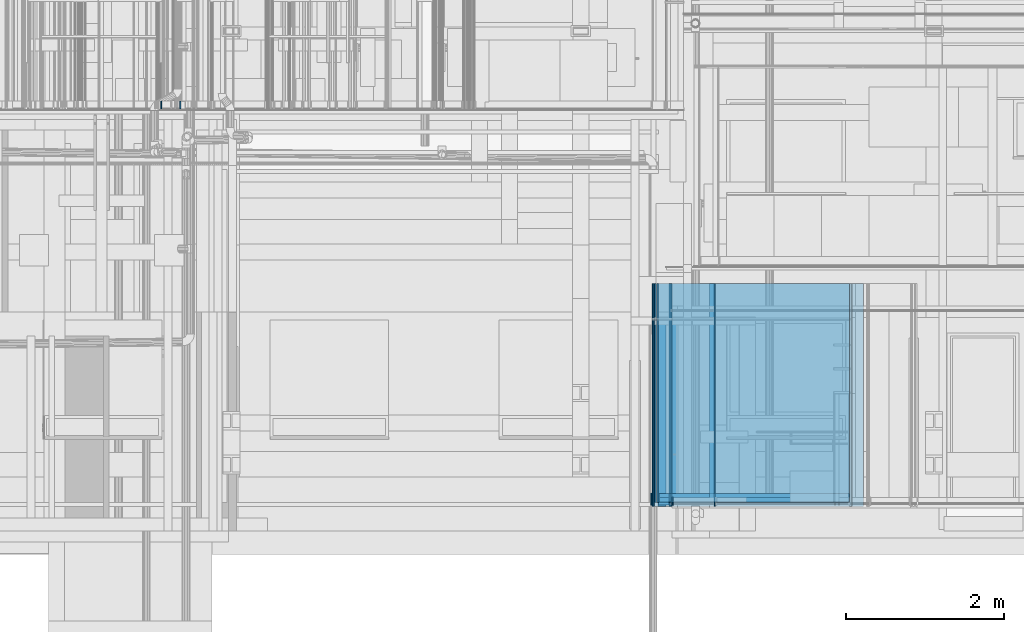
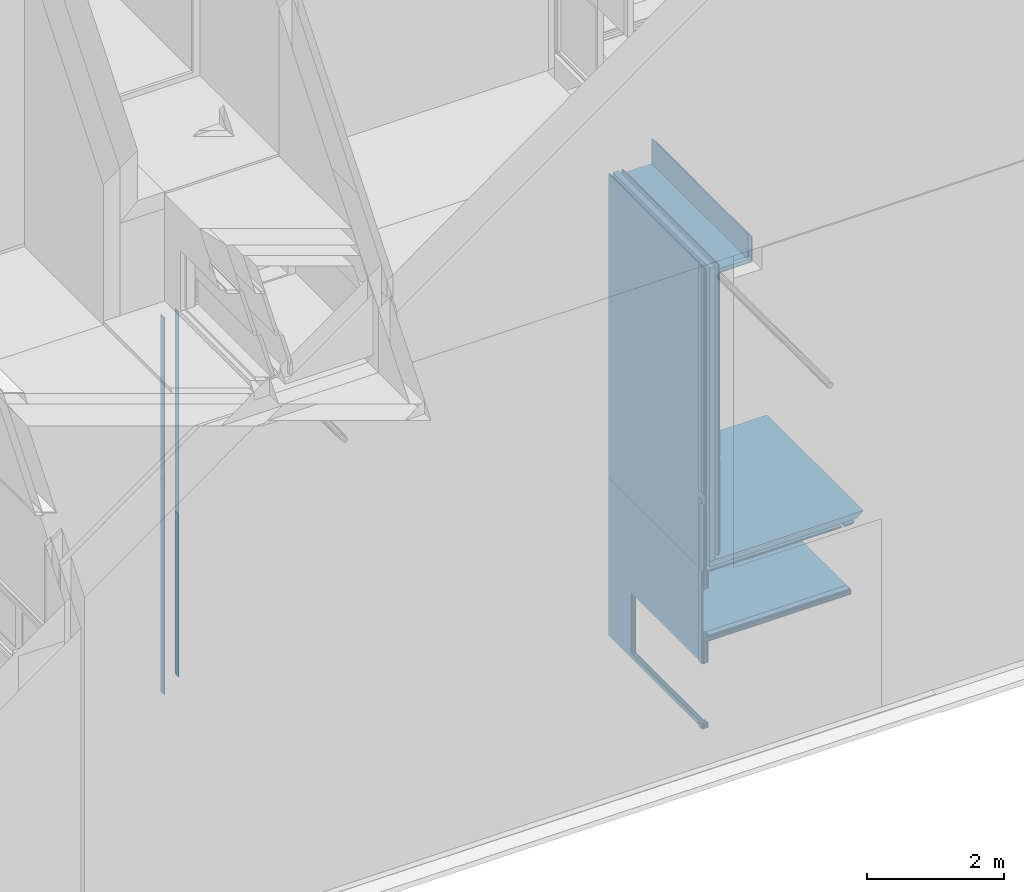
# One storey, part 45 of 583: 33 building element parts, 2 openings, 7 elements without a shape of their own.
"""IFC2X3 building model written with IfcOpenShell, lengths in metres."""

from ifc_helpers import new_model, entity, si_unit, converted_unit, derived_unit, money_unit, direction, frame, frame_2d, origin_with_axes, place, context, subcontext, project, spatial, polyline, rectangle, outline, composite_profile, extrude, material, type_object, element, aggregate, save


model = new_model("IFC2X3")

# Units and contexts
model_context = context("Model", 3, precision=1e-05, world=origin_with_axes(), true_north=direction((0.0, 1.0)))
body_context = subcontext(model_context, "Body", "Model", "MODEL_VIEW", scale=1.0)
ifc_project = project(units=[si_unit("LENGTHUNIT", "METRE"), si_unit("AREAUNIT", "SQUARE_METRE"), si_unit("VOLUMEUNIT", "CUBIC_METRE"), si_unit("ABSORBEDDOSEUNIT", "GRAY"), si_unit("AMOUNTOFSUBSTANCEUNIT", "MOLE"), si_unit("DOSEEQUIVALENTUNIT", "SIEVERT"), si_unit("ELECTRICCAPACITANCEUNIT", "FARAD"), si_unit("ELECTRICCHARGEUNIT", "COULOMB"), si_unit("ELECTRICCONDUCTANCEUNIT", "SIEMENS"), si_unit("ELECTRICCURRENTUNIT", "AMPERE"), si_unit("ELECTRICRESISTANCEUNIT", "OHM"), si_unit("ELECTRICVOLTAGEUNIT", "VOLT"), si_unit("ENERGYUNIT", "JOULE"), si_unit("FORCEUNIT", "NEWTON"), si_unit("FREQUENCYUNIT", "HERTZ"), si_unit("ILLUMINANCEUNIT", "LUX"), si_unit("INDUCTANCEUNIT", "HENRY"), si_unit("LUMINOUSFLUXUNIT", "LUMEN"), si_unit("LUMINOUSINTENSITYUNIT", "CANDELA"), si_unit("MAGNETICFLUXDENSITYUNIT", "TESLA"), si_unit("MAGNETICFLUXUNIT", "WEBER"), si_unit("MASSUNIT", "GRAM"), converted_unit("PLANEANGLEUNIT", "degree", entity("IfcReal", 0.0174532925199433), si_unit("PLANEANGLEUNIT", "RADIAN"), dimensions=[0, 0, 0, 0, 0, 0, 0]), si_unit("POWERUNIT", "WATT"), si_unit("PRESSUREUNIT", "PASCAL"), si_unit("RADIOACTIVITYUNIT", "BECQUEREL"), si_unit("SOLIDANGLEUNIT", "STERADIAN"), si_unit("THERMODYNAMICTEMPERATUREUNIT", "KELVIN"), si_unit("TIMEUNIT", "SECOND"), derived_unit("ACCELERATIONUNIT", [(si_unit("LENGTHUNIT", "METRE"), 1), (si_unit("TIMEUNIT", "SECOND"), -2)]), derived_unit("ANGULARVELOCITYUNIT", [(converted_unit("PLANEANGLEUNIT", "degree", entity("IfcReal", 0.0174532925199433), si_unit("PLANEANGLEUNIT", "RADIAN"), dimensions=[0, 0, 0, 0, 0, 0, 0]), 1), (si_unit("TIMEUNIT", "SECOND"), -1)]), derived_unit("CURVATUREUNIT", [(converted_unit("PLANEANGLEUNIT", "degree", entity("IfcReal", 0.0174532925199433), si_unit("PLANEANGLEUNIT", "RADIAN"), dimensions=[0, 0, 0, 0, 0, 0, 0]), 1), (si_unit("LENGTHUNIT", "METRE"), -1)]), derived_unit("DYNAMICVISCOSITYUNIT", [(si_unit("PRESSUREUNIT", "PASCAL"), 1), (si_unit("TIMEUNIT", "SECOND"), 1)]), derived_unit("HEATFLUXDENSITYUNIT", [(si_unit("POWERUNIT", "WATT"), 1), (si_unit("LENGTHUNIT", "METRE"), -2)]), derived_unit("HEATINGVALUEUNIT", [(si_unit("ENERGYUNIT", "JOULE"), 1), (si_unit("MASSUNIT", "GRAM"), -1)]), derived_unit("INTEGERCOUNTRATEUNIT", [(si_unit("TIMEUNIT", "SECOND"), -1)]), derived_unit("IONCONCENTRATIONUNIT", [(si_unit("MASSUNIT", "GRAM"), 1), (si_unit("VOLUMEUNIT", "CUBIC_METRE"), -1)]), derived_unit("ISOTHERMALMOISTURECAPACITYUNIT", [(si_unit("VOLUMEUNIT", "CUBIC_METRE"), 1), (si_unit("MASSUNIT", "GRAM"), -1)]), derived_unit("KINEMATICVISCOSITYUNIT", [(si_unit("AREAUNIT", "SQUARE_METRE"), 1), (si_unit("TIMEUNIT", "SECOND"), -1)]), derived_unit("LINEARFORCEUNIT", [(si_unit("FORCEUNIT", "NEWTON"), 1), (si_unit("LENGTHUNIT", "METRE"), -1)]), derived_unit("LINEARMOMENTUNIT", [(si_unit("FORCEUNIT", "NEWTON"), 1), (si_unit("LENGTHUNIT", "METRE"), -1)]), derived_unit("LINEARSTIFFNESSUNIT", [(si_unit("FORCEUNIT", "NEWTON"), 1), (si_unit("LENGTHUNIT", "METRE"), -1)]), derived_unit("LINEARVELOCITYUNIT", [(si_unit("LENGTHUNIT", "METRE"), 1), (si_unit("TIMEUNIT", "SECOND"), -1)]), derived_unit("LUMINOUSINTENSITYDISTRIBUTIONUNIT", [(si_unit("LUMINOUSINTENSITYUNIT", "CANDELA"), 1), (si_unit("LUMINOUSFLUXUNIT", "LUMEN"), -1)]), derived_unit("MASSDENSITYUNIT", [(si_unit("MASSUNIT", "GRAM"), 1), (si_unit("VOLUMEUNIT", "CUBIC_METRE"), -1)]), derived_unit("MASSFLOWRATEUNIT", [(si_unit("MASSUNIT", "GRAM"), 1), (si_unit("TIMEUNIT", "SECOND"), -1)]), derived_unit("MASSPERLENGTHUNIT", [(si_unit("MASSUNIT", "GRAM"), 1), (si_unit("LENGTHUNIT", "METRE"), -1)]), derived_unit("MODULUSOFELASTICITYUNIT", [(si_unit("FORCEUNIT", "NEWTON"), 1), (si_unit("AREAUNIT", "SQUARE_METRE"), -1)]), derived_unit("MODULUSOFLINEARSUBGRADEREACTIONUNIT", [(si_unit("FORCEUNIT", "NEWTON"), 1), (si_unit("LENGTHUNIT", "METRE"), -2)]), derived_unit("MODULUSOFROTATIONALSUBGRADEREACTIONUNIT", [(si_unit("FORCEUNIT", "NEWTON"), 1), (si_unit("LENGTHUNIT", "METRE"), 1)]), derived_unit("MODULUSOFSUBGRADEREACTIONUNIT", [(si_unit("FORCEUNIT", "NEWTON"), 1), (si_unit("VOLUMEUNIT", "CUBIC_METRE"), -1)]), derived_unit("MOISTUREDIFFUSIVITYUNIT", [(si_unit("VOLUMEUNIT", "CUBIC_METRE"), 1), (si_unit("TIMEUNIT", "SECOND"), -1)]), derived_unit("MOLECULARWEIGHTUNIT", [(si_unit("MASSUNIT", "GRAM"), 1), (si_unit("AMOUNTOFSUBSTANCEUNIT", "MOLE"), -1)]), derived_unit("PLANARFORCEUNIT", [(si_unit("FORCEUNIT", "NEWTON"), 1), (si_unit("LENGTHUNIT", "METRE"), -2)]), derived_unit("ROTATIONALFREQUENCYUNIT", [(si_unit("TIMEUNIT", "SECOND"), -1)]), derived_unit("ROTATIONALMASSUNIT", [(si_unit("MASSUNIT", "GRAM"), 1), (si_unit("LENGTHUNIT", "METRE"), 2)]), derived_unit("ROTATIONALSTIFFNESSUNIT", [(si_unit("FORCEUNIT", "NEWTON"), 1), (si_unit("LENGTHUNIT", "METRE"), 1), (converted_unit("PLANEANGLEUNIT", "degree", entity("IfcReal", 0.0174532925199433), si_unit("PLANEANGLEUNIT", "RADIAN"), dimensions=[0, 0, 0, 0, 0, 0, 0]), -1)]), derived_unit("SECTIONAREAINTEGRALUNIT", [(si_unit("LENGTHUNIT", "METRE"), 5)]), derived_unit("SECTIONMODULUSUNIT", [(si_unit("LENGTHUNIT", "METRE"), 3)]), derived_unit("SHEARMODULUSUNIT", [(si_unit("FORCEUNIT", "NEWTON"), 1), (si_unit("AREAUNIT", "SQUARE_METRE"), -1)]), derived_unit("SOUNDPOWERUNIT", [(si_unit("ENERGYUNIT", "JOULE"), 1), (si_unit("TIMEUNIT", "SECOND"), -1)]), derived_unit("SPECIFICHEATCAPACITYUNIT", [(si_unit("FORCEUNIT", "NEWTON"), 1), (si_unit("MASSUNIT", "GRAM"), -1), (si_unit("THERMODYNAMICTEMPERATUREUNIT", "KELVIN"), -1)]), derived_unit("TEMPERATUREGRADIENTUNIT", [(si_unit("THERMODYNAMICTEMPERATUREUNIT", "KELVIN"), 1), (si_unit("LENGTHUNIT", "METRE"), -1)]), derived_unit("THERMALADMITTANCEUNIT", [(si_unit("POWERUNIT", "WATT"), 1), (si_unit("AREAUNIT", "SQUARE_METRE"), -1), (si_unit("THERMODYNAMICTEMPERATUREUNIT", "KELVIN"), -1)]), derived_unit("THERMALCONDUCTANCEUNIT", [(si_unit("POWERUNIT", "WATT"), 1), (si_unit("LENGTHUNIT", "METRE"), -1), (si_unit("THERMODYNAMICTEMPERATUREUNIT", "KELVIN"), -1)]), derived_unit("THERMALEXPANSIONCOEFFICIENTUNIT", [(si_unit("THERMODYNAMICTEMPERATUREUNIT", "KELVIN"), -1)]), derived_unit("THERMALRESISTANCEUNIT", [(si_unit("AREAUNIT", "SQUARE_METRE"), 1), (si_unit("POWERUNIT", "WATT"), -1)]), derived_unit("THERMALTRANSMITTANCEUNIT", [(si_unit("POWERUNIT", "WATT"), 1), (si_unit("AREAUNIT", "SQUARE_METRE"), -1), (si_unit("THERMODYNAMICTEMPERATUREUNIT", "KELVIN"), -1)]), derived_unit("TORQUEUNIT", [(si_unit("FORCEUNIT", "NEWTON"), 1), (si_unit("LENGTHUNIT", "METRE"), 1)]), derived_unit("VAPORPERMEABILITYUNIT", [(si_unit("MASSUNIT", "GRAM"), 1), (si_unit("TIMEUNIT", "SECOND"), -1)]), derived_unit("VOLUMETRICFLOWRATEUNIT", [(si_unit("VOLUMEUNIT", "CUBIC_METRE"), 1), (si_unit("TIMEUNIT", "SECOND"), -1)]), derived_unit("WARPINGCONSTANTUNIT", [(si_unit("LENGTHUNIT", "METRE"), 6)]), derived_unit("WARPINGMOMENTUNIT", [(si_unit("FORCEUNIT", "NEWTON"), 1), (si_unit("LENGTHUNIT", "METRE"), 2)]), money_unit("GBP")], contexts=[model_context])

# Site, building, storey
site_placement = place(None, origin_with_axes())
site = spatial("IfcSite", under=ifc_project, at=site_placement, Name="Site", CompositionType="ELEMENT")
building_placement = place(site_placement, origin_with_axes())
building = spatial("IfcBuilding", under=site, at=building_placement, Name="Building01", CompositionType="ELEMENT")
storey_placement = place(building_placement, frame((0.0, 0.0, 20.78), z_axis=(0.0, 0.0, 1.0), x_axis=(1.0, 0.0, 0.0)))
storey = spatial("IfcBuildingStorey", under=building, at=storey_placement, Name="RL", CompositionType="ELEMENT", Elevation=20.78)

# Wall, building element parts
wall_type_1 = type_object("IfcWallType", Name="SHE_A-Walls_Type01a_Partywall_250mm_twin", PredefinedType="NOTDEFINED")
wall_1_placement = place(storey_placement, frame((16.968647, 0.148, -17.324475), z_axis=(0.0, 1.0, 0.0), x_axis=(-1.0, 0.0, 0.0)))
wall_1 = element("IfcWall", 1, at=wall_1_placement, inside=storey, type_object=wall_type_1, Name="1A", ObjectType="SHE_A-Walls_Type01a_Partywall_250mm_twin")
ifc_material_1 = material(Name="A_BSUK_Insulation")
placement_1 = place(wall_1_placement, origin_with_axes())
building_element_part_1 = element("IfcBuildingElementPart", 2, at=placement_1, material=ifc_material_1, Name="1", context=body_context, shape_type="SweptSolid", body=[
    extrude(outline(polyline([(2.493647, 0.1), (-0.1, 0.1), (0.0, 0.0), (2.493647, 0.0), (2.493647, 0.1)])), origin_with_axes(), (0.0, 0.0, 1.0), 2.812),
])
ifc_material_2 = material(Name="A_BSUK_WallInternal_Finishes_Plasterboard")
building_element_part_2 = element("IfcBuildingElementPart", 3, at=placement_1, material=ifc_material_2, Name="5", context=body_context, shape_type="SweptSolid", body=[
    extrude(composite_profile([rectangle(XDim=2.27864974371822, YDim=0.015, at=frame_2d((1.399322, -0.0525), x_axis=(1.0, 0.0))), outline(polyline([(0.209998, -0.045), (0.045, -0.045), (0.06, -0.06), (0.209998, -0.06), (0.209998, -0.045)]))]), origin_with_axes(), (0.0, 0.0, 1.0), 2.812),
])
building_element_part_3 = element("IfcBuildingElementPart", 4, at=placement_1, material=ifc_material_2, Name="6", context=body_context, shape_type="SweptSolid", body=[
    extrude(composite_profile([outline(polyline([(0.259998, -0.075), (2.568647, -0.075), (2.553647, -0.06), (0.259998, -0.06), (0.259998, -0.075)])), outline(polyline([(0.209998, -0.06), (0.06, -0.06), (0.075, -0.075), (0.209998, -0.075), (0.209998, -0.06)]))]), origin_with_axes(), (0.0, 0.0, 1.0), 2.812),
])
ifc_material_3 = material(Name="A_BSUK_Walls_Timber")
building_element_part_4 = element("IfcBuildingElementPart", 5, at=placement_1, material=ifc_material_3, Name="7", context=body_context, shape_type="SweptSolid", body=[
    extrude(composite_profile([outline(polyline([(0.259998, -0.09), (2.473647, -0.09), (2.488647, -0.075), (0.259998, -0.075), (0.259998, -0.09)])), outline(polyline([(0.209998, -0.075), (0.075, -0.075), (0.09, -0.09), (0.209998, -0.09), (0.209998, -0.075)]))]), frame((0.0, 0.0, 0.015), z_axis=(0.0, 0.0, 1.0), x_axis=(1.0, 0.0, 0.0)), (0.0, 0.0, 1.0), 0.1),
])
aggregate(wall_1, [building_element_part_1, building_element_part_2, building_element_part_3, building_element_part_4])

wall_type_2 = type_object("IfcWallType", Name="SHE_A-Walls_Type05b_Partition_80mm", PredefinedType="NOTDEFINED")
wall_2_placement = place(storey_placement, frame((16.893647, 0.198, -18.639975), z_axis=(0.0, 1.0, 0.0), x_axis=(-1.0, 0.0, 0.0)))
wall_2 = element("IfcWall", 6, at=wall_2_placement, inside=storey, type_object=wall_type_2, Name="5B", ObjectType="SHE_A-Walls_Type05b_Partition_80mm")
placement_2 = place(wall_2_placement, origin_with_axes())
building_element_part_5 = element("IfcBuildingElementPart", 7, at=placement_2, material=ifc_material_1, Name="1", context=body_context, shape_type="SweptSolid", body=[
    extrude(rectangle(XDim=2.441647, YDim=0.025, at=frame_2d((1.220824, 0.0), x_axis=(-1.0, 0.0))), origin_with_axes(), (0.0, 0.0, 1.0), 2.762),
])
building_element_part_6 = element("IfcBuildingElementPart", 8, at=placement_2, material=ifc_material_3, Name="2", context=body_context, shape_type="SweptSolid", body=[
    extrude(outline(polyline([(2.398647, 0.0555), (0.015, 0.0555), (0.0, 0.0405), (2.413647, 0.0405), (2.398647, 0.0555)])), frame((0.0, 0.0, 0.015), z_axis=(0.0, 0.0, 1.0), x_axis=(1.0, 0.0, 0.0)), (0.0, 0.0, 1.0), 0.1),
])
building_element_part_7 = element("IfcBuildingElementPart", 9, at=placement_2, material=ifc_material_2, Name="3", context=body_context, shape_type="SweptSolid", body=[
    extrude(rectangle(XDim=2.413647, YDim=0.015, at=frame_2d((1.206824, 0.033), x_axis=(-1.0, 0.0))), origin_with_axes(), (0.0, 0.0, 1.0), 2.762),
])
building_element_part_8 = element("IfcBuildingElementPart", 10, at=placement_2, material=ifc_material_2, Name="4", context=body_context, shape_type="SweptSolid", body=[
    extrude(rectangle(XDim=2.428647, YDim=0.015, at=frame_2d((1.214324, -0.032), x_axis=(-1.0, 0.0))), origin_with_axes(), (0.0, 0.0, 1.0), 2.762),
])
building_element_part_9 = element("IfcBuildingElementPart", 11, at=placement_2, material=ifc_material_3, Name="5", context=body_context, shape_type="SweptSolid", body=[
    extrude(outline(polyline([(2.413647, -0.0395), (0.0, -0.0395), (0.015, -0.0545), (2.398647, -0.0545), (2.413647, -0.0395)])), frame((0.0, 0.0, 0.015), z_axis=(0.0, 0.0, 1.0), x_axis=(1.0, 0.0, 0.0)), (0.0, 0.0, 1.0), 0.1),
])
aggregate(wall_2, [building_element_part_5, building_element_part_6, building_element_part_7, building_element_part_8, building_element_part_9])

wall_3_placement = place(storey_placement, frame((14.475, 0.148, -17.224475), z_axis=(0.0, 1.0, 0.0), x_axis=(0.0, 0.0, 1.0)))
wall_3 = element("IfcWall", 12, at=wall_3_placement, inside=storey, type_object=wall_type_1, Name="1A", ObjectType="SHE_A-Walls_Type01a_Partywall_250mm_twin")
placement_3 = place(wall_3_placement, origin_with_axes())
building_element_part_10 = element("IfcBuildingElementPart", 13, at=placement_3, material=ifc_material_1, Name="1", context=body_context, shape_type="SweptSolid", body=[
    extrude(rectangle(XDim=5.21974, YDim=0.1, at=frame_2d((2.60987, 0.05), x_axis=(-1.0, 0.0))), origin_with_axes(), (0.0, 0.0, 1.0), 2.812),
])
building_element_part_11 = element("IfcBuildingElementPart", 14, at=placement_3, material=ifc_material_3, Name="2", context=body_context, shape_type="SweptSolid", body=[
    extrude(rectangle(XDim=1.628731, YDim=0.015, at=frame_2d((0.904366, 0.1825), x_axis=(-1.0, 0.0))), frame((0.0, 0.0, 0.015), z_axis=(0.0, 0.0, 1.0), x_axis=(1.0, 0.0, 0.0)), (0.0, 0.0, 1.0), 0.1),
])
building_element_part_12 = element("IfcBuildingElementPart", 15, at=placement_3, material=ifc_material_2, Name="3", context=body_context, shape_type="SweptSolid", body=[
    extrude(rectangle(XDim=5.14474, YDim=0.015, at=frame_2d((2.64737, 0.1675), x_axis=(-1.0, 0.0))), origin_with_axes(), (0.0, 0.0, 1.0), 2.812),
])
building_element_part_13 = element("IfcBuildingElementPart", 16, at=placement_3, material=ifc_material_2, Name="4", context=body_context, shape_type="SweptSolid", body=[
    extrude(rectangle(XDim=5.15974, YDim=0.015, at=frame_2d((2.63987, 0.1525), x_axis=(-1.0, 0.0))), origin_with_axes(), (0.0, 0.0, 1.0), 2.812),
])
building_element_part_14 = element("IfcBuildingElementPart", 17, at=placement_3, material=ifc_material_2, Name="5", context=body_context, shape_type="SweptSolid", body=[
    extrude(rectangle(XDim=5.37974, YDim=0.015, at=frame_2d((2.52987, -0.0525), x_axis=(-1.0, 0.0))), origin_with_axes(), (0.0, 0.0, 1.0), 2.812),
])
building_element_part_15 = element("IfcBuildingElementPart", 18, at=placement_3, material=ifc_material_2, Name="6", context=body_context, shape_type="SweptSolid", body=[
    extrude(outline(polyline([(5.21974, -0.06), (-0.16, -0.06), (-0.175, -0.075), (5.21974, -0.075), (5.21974, -0.06)])), origin_with_axes(), (0.0, 0.0, 1.0), 2.812),
])
building_element_part_16 = element("IfcBuildingElementPart", 19, at=placement_3, material=ifc_material_3, Name="7", context=body_context, shape_type="SweptSolid", body=[
    extrude(rectangle(XDim=0.015, YDim=1.192594, at=frame_2d((0.421297, -0.0825), x_axis=(0.0, -1.0))), frame((0.0, 0.0, 0.015), z_axis=(0.0, 0.0, 1.0), x_axis=(1.0, 0.0, 0.0)), (0.0, 0.0, 1.0), 0.1),
])
building_element_part_17 = element("IfcBuildingElementPart", 20, at=placement_3, material=ifc_material_3, Name="8", context=body_context, shape_type="SweptSolid", body=[
    extrude(rectangle(XDim=4.007584, YDim=0.015, at=frame_2d((3.215949, -0.0825), x_axis=(-1.0, 0.0))), frame((0.0, 0.0, 0.015), z_axis=(0.0, 0.0, 1.0), x_axis=(1.0, 0.0, 0.0)), (0.0, 0.0, 1.0), 0.1),
])
building_element_part_18 = element("IfcBuildingElementPart", 21, at=placement_3, material=ifc_material_3, Name="9", context=body_context, shape_type="SweptSolid", body=[
    extrude(rectangle(XDim=3.279035, YDim=0.015, at=frame_2d((3.438249, 0.1825), x_axis=(-1.0, 0.0))), frame((0.0, 0.0, 0.015), z_axis=(0.0, 0.0, 1.0), x_axis=(1.0, 0.0, 0.0)), (0.0, 0.0, 1.0), 0.1),
])
aggregate(wall_3, [building_element_part_10, building_element_part_11, building_element_part_12, building_element_part_13, building_element_part_14, building_element_part_15, building_element_part_16, building_element_part_17, building_element_part_18])

# Wall, openings, building element parts
wall_4_placement = place(storey_placement, frame((14.4395, 0.198, -20.214298), z_axis=(0.0, 1.0, 0.0), x_axis=(0.0, 0.0, 1.0)))
wall_4 = element("IfcWall", 22, at=wall_4_placement, inside=storey, type_object=wall_type_2, Name="5B", ObjectType="SHE_A-Walls_Type05b_Partition_80mm")
opening_1_placement = place(wall_4_placement, frame((1.647823, 0.0405, 0.0), z_axis=(0.0, 0.0, 1.0), x_axis=(1.0, 0.0, 0.0)))
element("IfcOpeningElement", 23, at=opening_1_placement, cuts=wall_4, Name="Opening", ObjectType="Opening", context=body_context, shape_type="SweptSolid", body=[
    extrude(rectangle(XDim=2.1, YDim=0.834, at=frame_2d((-0.417, 1.05), x_axis=(0.0, -1.0))), frame((0.0, -0.0795, 0.0), z_axis=(0.0, 1.0, 0.0), x_axis=(-1.0, 0.0, 0.0)), (0.0, 0.0, 1.0), 0.159),
])
opening_2_placement = place(wall_4_placement, frame((0.075411, -0.0395, 0.0), z_axis=(0.0, 0.0, 1.0), x_axis=(1.0, 0.0, 0.0)))
element("IfcOpeningElement", 24, at=opening_2_placement, cuts=wall_4, Name="Opening", ObjectType="Opening", context=body_context, shape_type="SweptSolid", body=[
    extrude(rectangle(XDim=1.084, YDim=2.1, at=frame_2d((0.542, 1.05), x_axis=(1.0, 0.0))), frame((0.0, 4.338322, 0.0), z_axis=(0.0, -1.0, 0.0), x_axis=(1.0, 0.0, 0.0)), (0.0, 0.0, 1.0), 8.676643),
])
placement_4 = place(wall_4_placement, origin_with_axes())
building_element_part_19 = element("IfcBuildingElementPart", 25, at=placement_4, material=ifc_material_1, Name="1", context=body_context, shape_type="SweptSolid", body=[
    extrude(rectangle(XDim=2.814823, YDim=0.025, at=frame_2d((1.407411, 0.0), x_axis=(-1.0, 0.0))), origin_with_axes(), (0.0, 0.0, 1.0), 2.762),
])
building_element_part_20 = element("IfcBuildingElementPart", 26, at=placement_4, material=ifc_material_3, Name="2", context=body_context, shape_type="SweptSolid", body=[
    extrude(composite_profile([outline(polyline([(1.519823, 0.0555), (0.0, 0.0555), (0.0, 0.0405), (1.534823, 0.0405), (1.519823, 0.0555)])), outline(polyline([(1.614823, 0.0405), (2.814823, 0.0405), (2.799823, 0.0555), (1.629823, 0.0555), (1.614823, 0.0405)]))]), frame((0.0, 0.0, 0.015), z_axis=(0.0, 0.0, 1.0), x_axis=(1.0, 0.0, 0.0)), (0.0, 0.0, 1.0), 0.1),
])
building_element_part_21 = element("IfcBuildingElementPart", 27, at=placement_4, material=ifc_material_2, Name="3", context=body_context, shape_type="SweptSolid", body=[
    extrude(rectangle(XDim=1.534823, YDim=0.015, at=frame_2d((0.767411, 0.033), x_axis=(-1.0, 0.0))), origin_with_axes(), (0.0, 0.0, 1.0), 2.762),
])
building_element_part_22 = element("IfcBuildingElementPart", 28, at=placement_4, material=ifc_material_2, Name="4", context=body_context, shape_type="SweptSolid", body=[
    extrude(rectangle(XDim=2.814823, YDim=0.015, at=frame_2d((1.407411, -0.032), x_axis=(-1.0, 0.0))), origin_with_axes(), (0.0, 0.0, 1.0), 2.762),
])
building_element_part_23 = element("IfcBuildingElementPart", 29, at=placement_4, material=ifc_material_3, Name="5", context=body_context, shape_type="SweptSolid", body=[
    extrude(rectangle(XDim=4.069979, YDim=0.015, at=frame_2d((2.03499, -0.047), x_axis=(1.0, 0.0))), frame((0.0, 0.0, 0.015), z_axis=(0.0, 0.0, 1.0), x_axis=(1.0, 0.0, 0.0)), (0.0, 0.0, 1.0), 0.1),
])
building_element_part_24 = element("IfcBuildingElementPart", 30, at=placement_4, material=ifc_material_2, Name="6", context=body_context, shape_type="SweptSolid", body=[
    extrude(rectangle(XDim=1.215, YDim=0.015, at=frame_2d((2.207323, 0.033), x_axis=(-1.0, 0.0))), origin_with_axes(), (0.0, 0.0, 1.0), 2.762),
])
building_element_part_25 = element("IfcBuildingElementPart", 31, at=placement_4, material=ifc_material_3, Name="7", context=body_context, shape_type="SweptSolid", body=[
    extrude(rectangle(XDim=4.007584, YDim=0.015, at=frame_2d((6.205771, -0.047), x_axis=(-1.0, 0.0))), frame((0.0, 0.0, 0.015), z_axis=(0.0, 0.0, 1.0), x_axis=(1.0, 0.0, 0.0)), (0.0, 0.0, 1.0), 0.1),
])
aggregate(wall_4, [building_element_part_19, building_element_part_20, building_element_part_21, building_element_part_22, building_element_part_23, building_element_part_24, building_element_part_25])

# Wall, building element parts
wall_type_3 = type_object("IfcWallType", Name="SHE_A-Walls_Type06c_ExternalWallInsulation_60mm", PredefinedType="NOTDEFINED")
wall_5_placement = place(storey_placement, frame((14.65, 0.148, -12.074709), z_axis=(0.0, 1.0, 0.0), x_axis=(1.0, 0.0, 0.0)))
wall_5 = element("IfcWall", 32, at=wall_5_placement, inside=storey, type_object=wall_type_3, Name="6C", ObjectType="SHE_A-Walls_Type06c_ExternalWallInsulation_60mm")
placement_5 = place(wall_5_placement, origin_with_axes())
building_element_part_26 = element("IfcBuildingElementPart", 33, at=placement_5, material=ifc_material_1, Name="1", context=body_context, shape_type="SweptSolid", body=[
    extrude(outline(polyline([(0.537892, 0.06), (0.0, 0.06), (0.0, 0.0), (0.477892, 0.0), (0.537892, 0.06)])), origin_with_axes(), (0.0, 0.0, 1.0), 2.812),
])
building_element_part_27 = element("IfcBuildingElementPart", 34, at=placement_5, material=ifc_material_2, Name="3", context=body_context, shape_type="SweptSolid", body=[
    extrude(outline(polyline([(0.549892, 0.072), (0.0, 0.072), (0.0, 0.059), (0.536892, 0.059), (0.549892, 0.072)])), origin_with_axes(), (0.0, 0.0, 1.0), 2.812),
])
aggregate(wall_5, [building_element_part_26, building_element_part_27])

wall_6_placement = place(storey_placement, frame((15.127892, 0.148, -12.074709), z_axis=(0.0, 1.0, 0.0), x_axis=(0.0, 0.0, 1.0)))
wall_6 = element("IfcWall", 35, at=wall_6_placement, inside=storey, type_object=wall_type_3, Name="6C", ObjectType="SHE_A-Walls_Type06c_ExternalWallInsulation_60mm")
placement_6 = place(wall_6_placement, origin_with_axes())
building_element_part_28 = element("IfcBuildingElementPart", 36, at=placement_6, material=ifc_material_1, Name="1", context=body_context, shape_type="SweptSolid", body=[
    extrude(outline(polyline([(0.388974, 0.06), (-0.06, 0.06), (0.0, 0.0), (0.448974, 0.0), (0.388974, 0.06)])), origin_with_axes(), (0.0, 0.0, 1.0), 2.812),
])
building_element_part_29 = element("IfcBuildingElementPart", 37, at=placement_6, material=ifc_material_2, Name="3", context=body_context, shape_type="SweptSolid", body=[
    extrude(outline(polyline([(0.376974, 0.072), (-0.072, 0.072), (-0.059, 0.059), (0.389974, 0.059), (0.376974, 0.072)])), origin_with_axes(), (0.0, 0.0, 1.0), 2.812),
])
aggregate(wall_6, [building_element_part_28, building_element_part_29])

wall_type_4 = type_object("IfcWallType", Name="SHE_A-Walls_Type01c_Partywall_225mm_twin_tall", PredefinedType="NOTDEFINED")
wall_7_placement = place(storey_placement, frame((8.34767, 5.15, -13.628331), z_axis=(0.0, 1.0, 0.0), x_axis=(0.0, 0.0, -1.0)))
wall_7 = element("IfcWall", 38, at=wall_7_placement, inside=storey, type_object=wall_type_4, Name="1C", ObjectType="SHE_A-Walls_Type01c_Partywall_225mm_twin_tall")
placement_7 = place(wall_7_placement, origin_with_axes())
building_element_part_30 = element("IfcBuildingElementPart", 39, at=placement_7, material=ifc_material_3, Name="2", context=body_context, shape_type="SweptSolid", body=[
    extrude(rectangle(XDim=6.549669, YDim=0.015, at=frame_2d((3.376834, 0.1445), x_axis=(-1.0, 0.0))), frame((0.0, 0.0, 0.015), z_axis=(0.0, 0.0, 1.0), x_axis=(1.0, 0.0, 0.0)), (0.0, 0.0, 1.0), 0.1),
])
building_element_part_31 = element("IfcBuildingElementPart", 40, at=placement_7, material=ifc_material_3, Name="7", context=body_context, shape_type="SweptSolid", body=[
    extrude(rectangle(XDim=0.015, YDim=6.486669, at=frame_2d((3.330334, -0.0955), x_axis=(0.0, -1.0))), frame((0.0, 0.0, 0.015), z_axis=(0.0, 0.0, 1.0), x_axis=(1.0, 0.0, 0.0)), (0.0, 0.0, 1.0), 0.1),
])
building_element_part_32 = element("IfcBuildingElementPart", 41, at=placement_7, material=ifc_material_3, Name="8", context=body_context, shape_type="SweptSolid", body=[
    extrude(rectangle(XDim=2.896669, YDim=0.015, at=frame_2d((5.125334, -0.0955), x_axis=(-1.0, 0.0))), frame((0.0, 0.0, 0.015), z_axis=(0.0, 0.0, 1.0), x_axis=(1.0, 0.0, 0.0)), (0.0, 0.0, 1.0), 0.1),
])
building_element_part_33 = element("IfcBuildingElementPart", 42, at=placement_7, material=ifc_material_3, Name="9", context=body_context, shape_type="SweptSolid", body=[
    extrude(rectangle(XDim=3.79773, YDim=0.015, at=frame_2d((4.904804, 0.1445), x_axis=(-1.0, 0.0))), frame((0.0, 0.0, 0.015), z_axis=(0.0, 0.0, 1.0), x_axis=(1.0, 0.0, 0.0)), (0.0, 0.0, 1.0), 0.1),
])
aggregate(wall_7, [building_element_part_30, building_element_part_31, building_element_part_32, building_element_part_33])

save(model, "model.ifc")
